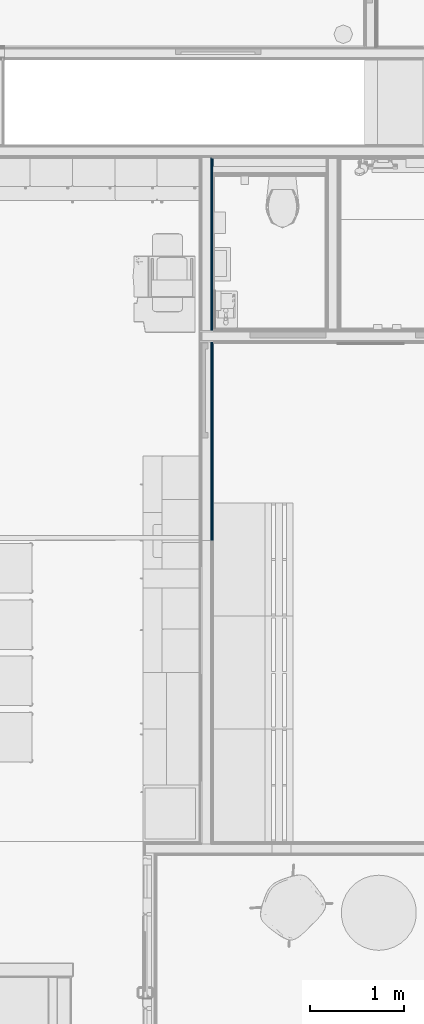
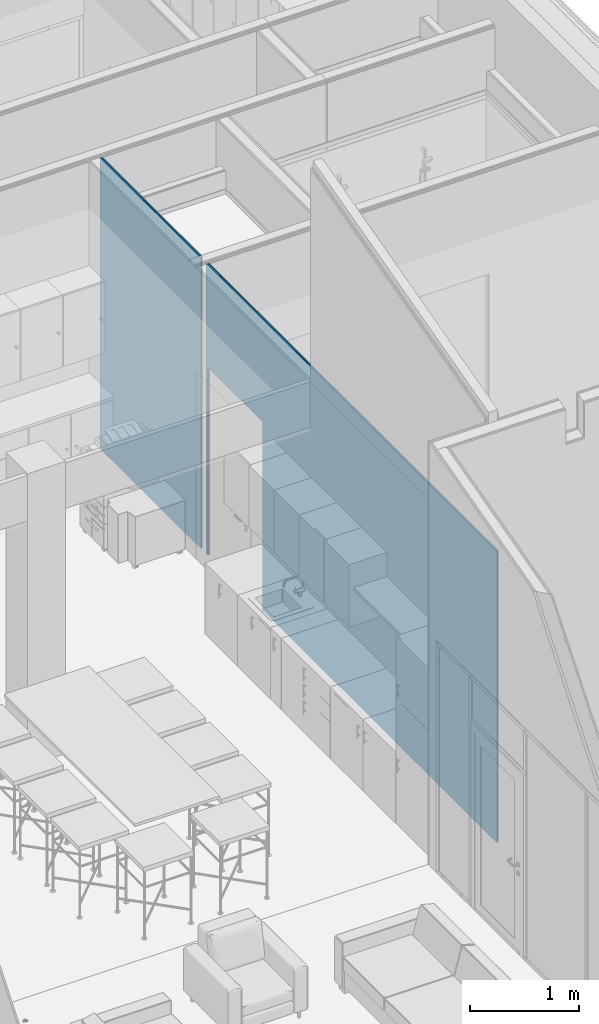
# One storey, part 76 of 153: 2 building element parts, 1 opening, 1 element without a shape of its own.
"""IFC2X3 building model written with IfcOpenShell, lengths in millimetres."""

from ifc_helpers import new_model, entity, si_unit, converted_unit, derived_unit, money_unit, direction, frame, origin_with_axes, place, context, subcontext, project, spatial, faceted_brep, material, type_object, element, aggregate, save


model = new_model("IFC2X3")

# Units and contexts
model_context = context("Model", 3, precision=0.01, world=origin_with_axes(), true_north=direction((0.0, 1.0)))
body_context = subcontext(model_context, "Body", "Model", "MODEL_VIEW")
ifc_project = project(units=[si_unit("LENGTHUNIT", "METRE", prefix="MILLI"), si_unit("AREAUNIT", "SQUARE_METRE"), si_unit("VOLUMEUNIT", "CUBIC_METRE"), converted_unit("PLANEANGLEUNIT", "DEGREE", entity("IfcPlaneAngleMeasure", 0.0174532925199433), si_unit("PLANEANGLEUNIT", "RADIAN"), dimensions=[0, 0, 0, 0, 0, 0, 0]), money_unit("EUR"), converted_unit("TIMEUNIT", "Year", entity("IfcTimeMeasure", 31557600.0), si_unit("TIMEUNIT", "SECOND"), dimensions=[0, 0, 1, 0, 0, 0, 0]), si_unit("MASSUNIT", "GRAM", prefix="KILO"), si_unit("THERMODYNAMICTEMPERATUREUNIT", "DEGREE_CELSIUS"), si_unit("LUMINOUSINTENSITYUNIT", "LUMEN"), si_unit("ENERGYUNIT", "JOULE", prefix="MEGA"), derived_unit("THERMALCONDUCTANCEUNIT", [(si_unit("POWERUNIT", "WATT"), 1), (si_unit("LENGTHUNIT", "METRE"), -1), (si_unit("THERMODYNAMICTEMPERATUREUNIT", "KELVIN"), -1)]), derived_unit("SPECIFICHEATCAPACITYUNIT", [(si_unit("ENERGYUNIT", "JOULE"), 1), (si_unit("MASSUNIT", "GRAM", prefix="KILO"), -1), (si_unit("THERMODYNAMICTEMPERATUREUNIT", "KELVIN"), -1)]), derived_unit("MASSDENSITYUNIT", [(si_unit("MASSUNIT", "GRAM", prefix="KILO"), 1), (si_unit("VOLUMEUNIT", "CUBIC_METRE"), -1)])], contexts=[model_context])

# Site, building, storey
site_placement = place(None, frame((0.0, 0.0, 8650.0), z_axis=(0.0, 0.0, 1.0), x_axis=(1.0, 0.0, 0.0)))
site = spatial("IfcSite", under=ifc_project, at=site_placement, Name="43301:001:0844", CompositionType="ELEMENT")
building_placement = place(site_placement, origin_with_axes())
building = spatial("IfcBuilding", under=site, at=building_placement, Name="Kuressaare Ametikooli tuulikute mehaanikute õppekorpus", CompositionType="ELEMENT")
storey_placement = place(building_placement, frame((0.0, 0.0, 4100.0), z_axis=(0.0, 0.0, 1.0), x_axis=(1.0, 0.0, 0.0)))
storey = spatial("IfcBuildingStorey", under=building, at=storey_placement, Name="2.korrus", CompositionType="ELEMENT", Elevation=4100.0)

# Wall, opening, building element parts
wall_type = type_object("IfcWallType", Name="SS-2.2 147", PredefinedType="NOTDEFINED")
wall_placement = place(storey_placement, frame((128717.9907946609, 20587.06892395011, 0.0), z_axis=(0.0, 0.0, 1.0), x_axis=(0.0, -1.0, 0.0)))
wall = element("IfcWall", 1, at=wall_placement, inside=storey, type_object=wall_type, Name="Sisesein")
opening_placement = place(wall_placement, frame((2618.022048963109, 0.0, 0.0), z_axis=(0.0, 0.0, 1.0), x_axis=(1.0, 0.0, 0.0)))
element("IfcOpeningElement", 2, at=opening_placement, cuts=wall, Name="PU10,dB", context=body_context, shape_type="Brep", body=[
    faceted_brep([(504.999999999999, 147.9999999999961, 2110.0), (504.999999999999, 147.9999999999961, 0.0), (-504.999999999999, 147.9999999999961, 0.0), (-504.999999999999, 147.9999999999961, 2110.0), (504.999999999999, -1.000000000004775, 2110.0), (504.999999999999, -1.000000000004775, 0.0), (-504.999999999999, -1.000000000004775, 0.0), (-504.999999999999, -1.000000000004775, 2110.0)], [[[0, 1, 2, 3]], [[4, 5, 1, 0]], [[5, 6, 2, 1]], [[6, 7, 3, 2]], [[7, 4, 0, 3]], [[6, 5, 4, 7]]]),
])
ifc_material = material(Name="Kipsplaat")
building_element_part_1_placement = place(wall_placement, origin_with_axes())
building_element_part_1 = element("IfcBuildingElementPart", 3, at=building_element_part_1_placement, material=ifc_material, Name="Kipsplaat", context=body_context, shape_type="Brep", body=[
    faceted_brep([(1992.022048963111, 133.9999999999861, 3260.712739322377), (134.0000000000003, 133.9999999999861, 3260.712739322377), (134.0000000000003, 121.0000000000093, 3260.712739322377), (1992.022048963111, 121.0000000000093, 3260.712739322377), (1992.022048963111, 133.9999999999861, 0.0), (134.0000000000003, 133.9999999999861, 0.0), (134.0000000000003, 121.0000000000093, 0.0), (1992.022048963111, 121.0000000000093, 0.0)], [[[0, 1, 2, 3]], [[4, 5, 1, 0]], [[2, 1, 5, 6]], [[3, 2, 6, 7]], [[3, 7, 4, 0]], [[7, 6, 5, 4]]]),
    faceted_brep([(3123.022048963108, 133.9999999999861, 0.0), (3123.022048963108, 133.9999999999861, 2110.0), (2113.02204896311, 133.9999999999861, 2110.0), (2113.02204896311, 133.9999999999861, 0.0), (2087.02204896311, 133.9999999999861, 0.0), (2087.02204896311, 133.9999999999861, 3260.712739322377), (7429.022202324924, 133.9999999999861, 3260.712739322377), (7429.022202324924, 133.9999999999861, 0.0), (3123.022048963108, 121.0000000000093, 0.0), (3123.022048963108, 121.0000000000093, 2110.0), (2113.02204896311, 121.0000000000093, 2110.0), (2113.02204896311, 121.0000000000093, 0.0), (2087.02204896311, 121.0000000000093, 0.0), (2087.02204896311, 121.0000000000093, 3260.712739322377), (7429.022202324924, 121.0000000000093, 3260.712739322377), (7429.022202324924, 121.0000000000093, 0.0)], [[[0, 1, 2, 3, 4, 5, 6, 7]], [[1, 0, 8, 9]], [[2, 1, 9, 10]], [[3, 2, 10, 11]], [[3, 11, 12, 4]], [[5, 4, 12, 13]], [[5, 13, 14, 6]], [[15, 7, 6, 14]], [[8, 0, 7, 15]], [[9, 8, 15, 14, 13, 12, 11, 10]]]),
])
building_element_part_2_placement = place(wall_placement, origin_with_axes())
building_element_part_2 = element("IfcBuildingElementPart", 4, at=building_element_part_2_placement, material=ifc_material, Name="Kipsplaat", context=body_context, shape_type="Brep", body=[
    faceted_brep([(1979.022048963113, 146.9999999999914, 3260.712739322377), (146.9999999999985, 146.9999999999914, 3260.712739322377), (146.9999999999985, 133.9999999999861, 3260.712739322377), (1979.022048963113, 133.9999999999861, 3260.712739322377), (1979.022048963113, 146.9999999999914, 0.0), (146.9999999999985, 146.9999999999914, 0.0), (146.9999999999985, 133.9999999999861, 0.0), (1979.022048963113, 133.9999999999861, 0.0)], [[[0, 1, 2, 3]], [[4, 5, 1, 0]], [[2, 1, 5, 6]], [[3, 2, 6, 7]], [[3, 7, 4, 0]], [[7, 6, 5, 4]]]),
    faceted_brep([(3123.022048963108, 146.9999999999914, 0.0), (3123.022048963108, 146.9999999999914, 2110.0), (2113.02204896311, 146.9999999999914, 2110.0), (2113.02204896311, 146.9999999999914, 0.0), (2100.022048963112, 146.9999999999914, 0.0), (2100.022048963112, 146.9999999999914, 3260.712739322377), (7416.022202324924, 146.9999999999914, 3260.712739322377), (7416.022202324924, 146.9999999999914, 0.0), (3123.022048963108, 133.9999999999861, 0.0), (3123.022048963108, 133.9999999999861, 2110.0), (2113.02204896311, 133.9999999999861, 2110.0), (2113.02204896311, 133.9999999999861, 0.0), (2100.022048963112, 133.9999999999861, 0.0), (2100.022048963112, 133.9999999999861, 3260.712739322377), (7416.022202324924, 133.9999999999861, 3260.712739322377), (7416.022202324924, 133.9999999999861, 0.0)], [[[0, 1, 2, 3, 4, 5, 6, 7]], [[1, 0, 8, 9]], [[2, 1, 9, 10]], [[3, 2, 10, 11]], [[3, 11, 12, 4]], [[5, 4, 12, 13]], [[5, 13, 14, 6]], [[15, 7, 6, 14]], [[8, 0, 7, 15]], [[9, 8, 15, 14, 13, 12, 11, 10]]]),
])
aggregate(wall, [building_element_part_1, building_element_part_2])

save(model, "model.ifc")
